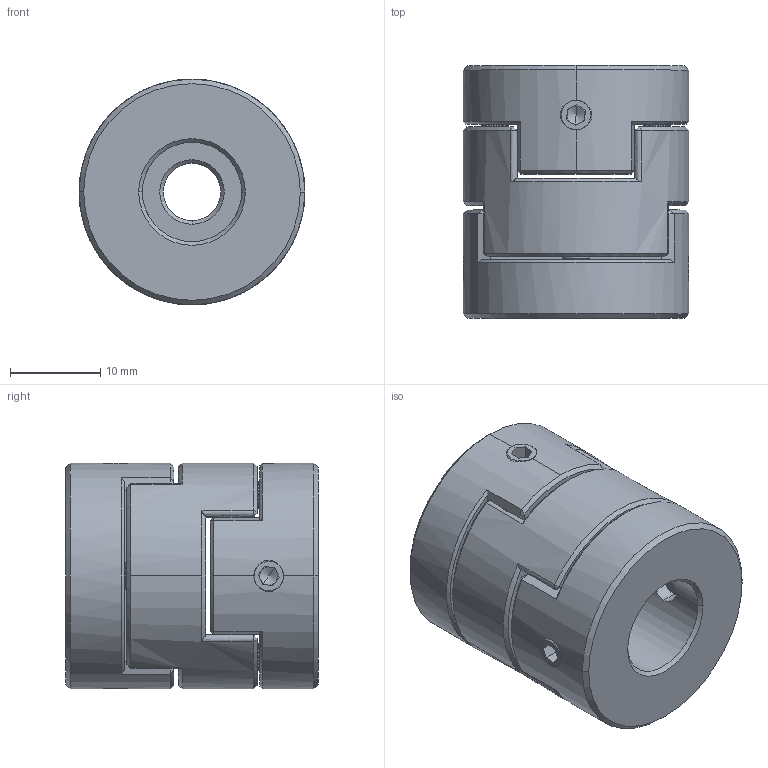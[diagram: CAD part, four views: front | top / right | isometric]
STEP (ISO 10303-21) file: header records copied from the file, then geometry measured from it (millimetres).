
FILE_DESCRIPTION (( 'STEP AP203' ), '1' );
FILE_NAME ('LZ-D-D25L28-6.35-11.STEP', '2021-10-30T02:15:32', ( '' ), ( '' ), 'SwSTEP 2.0', 'SolidWorks 2018', '' );
FILE_SCHEMA (( 'CONFIG_CONTROL_DESIGN' ));
Length unit declared in the file: millimetre
Products named in the file (1): LZ-D-D25L28-6.35-11
Bounding box: 25 x 28 x 25 mm (x, y, z)
Volume: 11232.4 mm3; surface area: 5537.3 mm2
Topology: 1 solids, 1 shells, 218 faces, 574 edges, 348 vertices
Faces by surface type: plane 88, cone 54, bspline 50, cylinder 26
Entity records: 9882 total; most frequent: CARTESIAN_POINT 4958, ORIENTED_EDGE 1132, DIRECTION 834, EDGE_CURVE 566, VERTEX_POINT 348, AXIS2_PLACEMENT_3D 303, EDGE_LOOP 234, LINE 228
